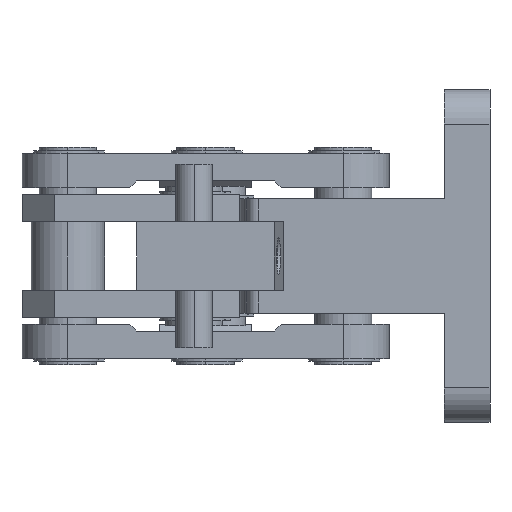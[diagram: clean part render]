
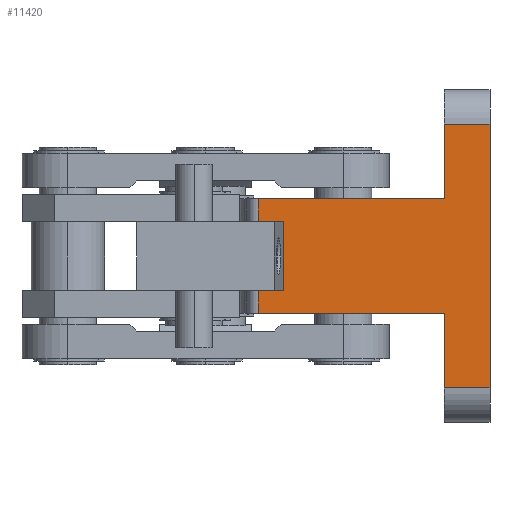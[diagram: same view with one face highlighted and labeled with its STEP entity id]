
A CAD part, left-side view. The second image highlights one B-rep face of the part: STEP entity #11420.
In plain terms, the highlighted planar face has unit normal (-1, 0, 0).
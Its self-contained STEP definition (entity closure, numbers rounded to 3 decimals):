
#3939 = CARTESIAN_POINT ( 'NONE',  ( 0., 20., 25. ) ) ;
#3944 = CARTESIAN_POINT ( 'NONE',  ( 0., 90., -15.1 ) ) ;
#3979 = CARTESIAN_POINT ( 'NONE',  ( 0., 90., 15.1 ) ) ;
#3980 = DIRECTION ( 'NONE',  ( 0., 0., 1. ) ) ;
#3981 = VECTOR ( 'NONE', #3980, 1000. ) ;
#3982 = CARTESIAN_POINT ( 'NONE',  ( 0., 90., 72.5 ) ) ;
#3985 = LINE ( 'NONE', #3982, #3981 ) ;
#4002 = LINE ( 'NONE', #4059, #4058 ) ;
#4003 = CARTESIAN_POINT ( 'NONE',  ( 0., 101., 25. ) ) ;
#4004 = DIRECTION ( 'NONE',  ( 0., 0., 1. ) ) ;
#4005 = VECTOR ( 'NONE', #4004, 1000. ) ;
#4006 = CARTESIAN_POINT ( 'NONE',  ( 0., 101., 72.5 ) ) ;
#4007 = LINE ( 'NONE', #4006, #4005 ) ;
#4033 = CARTESIAN_POINT ( 'NONE',  ( 0., 101., -15.1 ) ) ;
#4034 = DIRECTION ( 'NONE',  ( 0., 0., 1. ) ) ;
#4035 = VECTOR ( 'NONE', #4034, 1000. ) ;
#4036 = CARTESIAN_POINT ( 'NONE',  ( 0., 101., 72.5 ) ) ;
#4037 = LINE ( 'NONE', #4036, #4035 ) ;
#4038 = CARTESIAN_POINT ( 'NONE',  ( 0., 101., -25. ) ) ;
#4057 = DIRECTION ( 'NONE',  ( 0., -1., 0. ) ) ;
#4058 = VECTOR ( 'NONE', #4057, 1000. ) ;
#4059 = CARTESIAN_POINT ( 'NONE',  ( 0., 101., -15.1 ) ) ;
#4079 = DIRECTION ( 'NONE',  ( 0., -1., 0. ) ) ;
#4080 = VECTOR ( 'NONE', #4079, 1000. ) ;
#4081 = CARTESIAN_POINT ( 'NONE',  ( 0., 101., 25. ) ) ;
#4082 = LINE ( 'NONE', #4081, #4080 ) ;
#4156 = CARTESIAN_POINT ( 'NONE',  ( 0., 101., 15.1 ) ) ;
#4157 = DIRECTION ( 'NONE',  ( 0., 1., 0. ) ) ;
#4158 = VECTOR ( 'NONE', #4157, 1000. ) ;
#4159 = CARTESIAN_POINT ( 'NONE',  ( 0., 101., 15.1 ) ) ;
#4160 = LINE ( 'NONE', #4159, #4158 ) ;
#4211 = DIRECTION ( 'NONE',  ( 0., 0., 1. ) ) ;
#4212 = VECTOR ( 'NONE', #4211, 1000. ) ;
#4213 = CARTESIAN_POINT ( 'NONE',  ( 0., 20., 72.5 ) ) ;
#4214 = LINE ( 'NONE', #4213, #4212 ) ;
#4260 = DIRECTION ( 'NONE',  ( 0., 1., 0. ) ) ;
#4261 = VECTOR ( 'NONE', #4260, 1000. ) ;
#4262 = CARTESIAN_POINT ( 'NONE',  ( 0., 101., -25. ) ) ;
#4263 = LINE ( 'NONE', #4262, #4261 ) ;
#4275 = CARTESIAN_POINT ( 'NONE',  ( 0., 20., 57.5 ) ) ;
#4276 = CARTESIAN_POINT ( 'NONE',  ( 0., 20., -25. ) ) ;
#4277 = DIRECTION ( 'NONE',  ( 0., 0., 1. ) ) ;
#4278 = VECTOR ( 'NONE', #4277, 1000. ) ;
#4279 = CARTESIAN_POINT ( 'NONE',  ( 0., 20., 72.5 ) ) ;
#4280 = LINE ( 'NONE', #4279, #4278 ) ;
#4282 = CARTESIAN_POINT ( 'NONE',  ( 0., 20., -57.5 ) ) ;
#4485 = DIRECTION ( 'NONE',  ( 0., 0., 1. ) ) ;
#4486 = VECTOR ( 'NONE', #4485, 1000. ) ;
#4487 = CARTESIAN_POINT ( 'NONE',  ( 0., 0., 72.5 ) ) ;
#4488 = LINE ( 'NONE', #4487, #4486 ) ;
#4489 = DIRECTION ( 'NONE',  ( 0., 0., -1. ) ) ;
#4490 = DIRECTION ( 'NONE',  ( 1., 0., 0. ) ) ;
#4491 = CARTESIAN_POINT ( 'NONE',  ( 0., 101., 72.5 ) ) ;
#4492 = AXIS2_PLACEMENT_3D ( 'NONE', #4491, #4490, #4489 ) ;
#4493 = PLANE ( 'NONE',  #4492 ) ;
#4494 = FACE_OUTER_BOUND ( 'NONE', #11449, .T. ) ;
#4499 = CARTESIAN_POINT ( 'NONE',  ( 0., 0., -57.5 ) ) ;
#4529 = DIRECTION ( 'NONE',  ( 0., 1., 0. ) ) ;
#4530 = VECTOR ( 'NONE', #4529, 1000. ) ;
#4531 = CARTESIAN_POINT ( 'NONE',  ( 0., 101., -57.5 ) ) ;
#4532 = LINE ( 'NONE', #4531, #4530 ) ;
#4788 = CARTESIAN_POINT ( 'NONE',  ( 0., 0., 57.5 ) ) ;
#4789 = DIRECTION ( 'NONE',  ( 0., -1., 0. ) ) ;
#4790 = VECTOR ( 'NONE', #4789, 1000. ) ;
#4791 = CARTESIAN_POINT ( 'NONE',  ( 0., 101., 57.5 ) ) ;
#4797 = LINE ( 'NONE', #4791, #4790 ) ;
#8490 = VERTEX_POINT ( 'NONE', #3944 ) ;
#8496 = VERTEX_POINT ( 'NONE', #3939 ) ;
#8509 = EDGE_CURVE ( 'NONE', #8490, #8510, #3985, .T. ) ;
#8510 = VERTEX_POINT ( 'NONE', #3979 ) ;
#8535 = EDGE_CURVE ( 'NONE', #8605, #8536, #4007, .T. ) ;
#8536 = VERTEX_POINT ( 'NONE', #4003 ) ;
#8546 = EDGE_CURVE ( 'NONE', #8567, #8490, #4002, .T. ) ;
#8564 = VERTEX_POINT ( 'NONE', #4038 ) ;
#8566 = EDGE_CURVE ( 'NONE', #8564, #8567, #4037, .T. ) ;
#8567 = VERTEX_POINT ( 'NONE', #4033 ) ;
#8576 = EDGE_CURVE ( 'NONE', #8536, #8496, #4082, .T. ) ;
#8604 = EDGE_CURVE ( 'NONE', #8510, #8605, #4160, .T. ) ;
#8605 = VERTEX_POINT ( 'NONE', #4156 ) ;
#8648 = EDGE_CURVE ( 'NONE', #8496, #8692, #4214, .T. ) ;
#8685 = VERTEX_POINT ( 'NONE', #4282 ) ;
#8688 = EDGE_CURVE ( 'NONE', #8685, #8689, #4280, .T. ) ;
#8689 = VERTEX_POINT ( 'NONE', #4276 ) ;
#8692 = VERTEX_POINT ( 'NONE', #4275 ) ;
#8731 = EDGE_CURVE ( 'NONE', #8689, #8564, #4263, .T. ) ;
#11341 = ORIENTED_EDGE ( 'NONE', *, *, #8546, .F. ) ;
#11345 = ORIENTED_EDGE ( 'NONE', *, *, #8604, .F. ) ;
#11363 = ORIENTED_EDGE ( 'NONE', *, *, #8509, .F. ) ;
#11378 = ORIENTED_EDGE ( 'NONE', *, *, #8566, .F. ) ;
#11382 = ORIENTED_EDGE ( 'NONE', *, *, #8731, .F. ) ;
#11395 = ORIENTED_EDGE ( 'NONE', *, *, #8535, .F. ) ;
#11417 = VERTEX_POINT ( 'NONE', #4499 ) ;
#11420 = ADVANCED_FACE ( 'NONE', ( #4494 ), #4493, .F. ) ;
#11422 = EDGE_CURVE ( 'NONE', #11417, #11631, #4488, .T. ) ;
#11429 = EDGE_CURVE ( 'NONE', #11417, #8685, #4532, .T. ) ;
#11431 = ORIENTED_EDGE ( 'NONE', *, *, #8648, .F. ) ;
#11436 = ORIENTED_EDGE ( 'NONE', *, *, #8576, .F. ) ;
#11440 = ORIENTED_EDGE ( 'NONE', *, *, #11422, .T. ) ;
#11444 = ORIENTED_EDGE ( 'NONE', *, *, #11429, .F. ) ;
#11445 = ORIENTED_EDGE ( 'NONE', *, *, #8688, .F. ) ;
#11449 = EDGE_LOOP ( 'NONE', ( #11445, #11444, #11440, #11450, #11431, #11436, #11395, #11345, #11363, #11341, #11378, #11382 ) ) ;
#11450 = ORIENTED_EDGE ( 'NONE', *, *, #11630, .F. ) ;
#11630 = EDGE_CURVE ( 'NONE', #8692, #11631, #4797, .T. ) ;
#11631 = VERTEX_POINT ( 'NONE', #4788 ) ;
